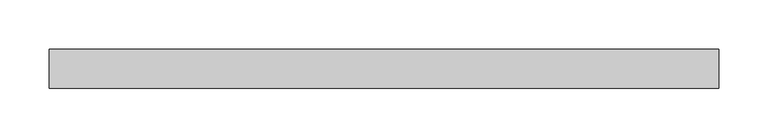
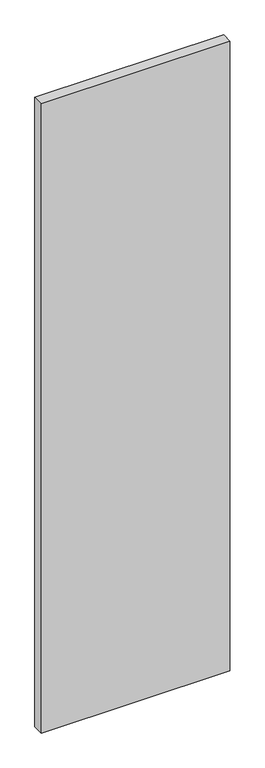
"""IFC4 building model written with IfcOpenShell, lengths in millimetres: plate geometry, Vitré."""

from ifc_helpers import new_model, si_unit, origin, origin_with_axes, place, context, project, spatial, polyline, outline, extrude, source, transform, mapped, element, save


def plate_21d46974(model_context):
    return source(origin(), model_context, "Body", "SweptSolid", [
        extrude(outline(polyline([(-341.3125, -20.0), (-341.3125, 20.0), (341.3125, 20.0), (341.3125, -20.0), (-341.3125, -20.0)])), origin_with_axes(), (0.0, 0.0, 1.0), 2407.625),
    ])


if __name__ == "__main__":
    model = new_model("IFC4")
    model_context = context("Model", 3, world=origin())
    ifc_project = project(units=[si_unit("LENGTHUNIT", "METRE", prefix="MILLI")], contexts=[model_context])
    site = spatial("IfcSite", under=ifc_project)
    building = spatial("IfcBuilding", under=site)
    placement = place(None, origin())
    plate_shape = plate_21d46974(model_context)
    element("IfcPlate", 1, ObjectType="Vitré", at=placement, inside=building, context=model_context, shape_type="MappedRepresentation", body=[
        mapped(plate_shape, transform((0.0, 0.0, 0.0), x_axis=(1.0, 0.0, 0.0), y_axis=(0.0, 1.0, 0.0), z_axis=(0.0, 0.0, 1.0))),
    ])
    save(model, "model.ifc")
